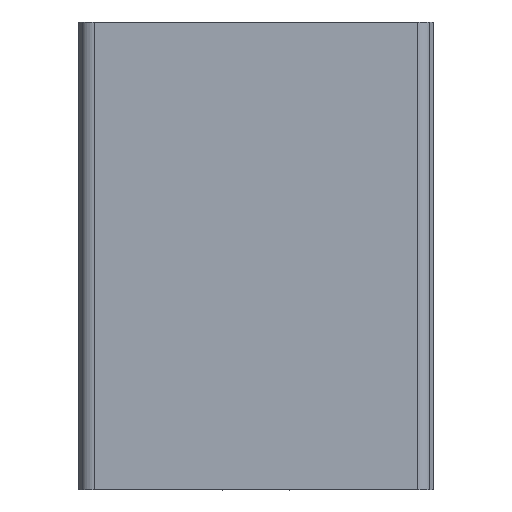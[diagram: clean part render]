
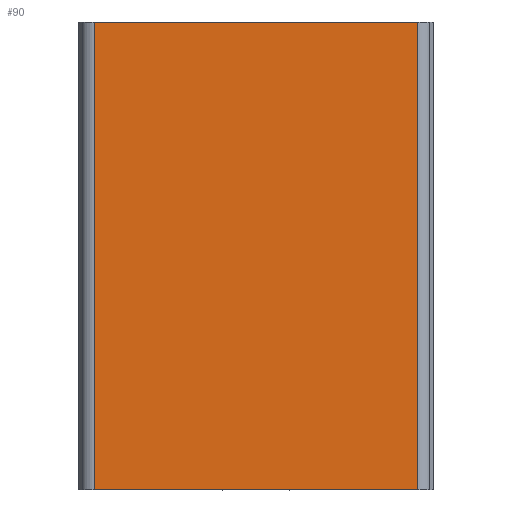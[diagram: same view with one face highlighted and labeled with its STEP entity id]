
A CAD part, top view. The second image highlights one B-rep face of the part: STEP entity #90.
In plain terms, the highlighted planar face has unit normal (0, 0, 1).
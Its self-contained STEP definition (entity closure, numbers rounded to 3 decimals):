
#90=ADVANCED_FACE('',(#206),#207,.F.);
#206=FACE_OUTER_BOUND('',#345,.T.);
#207=PLANE('',#346);
#345=EDGE_LOOP('',(#571,#572,#573,#574));
#346=AXIS2_PLACEMENT_3D('',#575,#576,#577);
#571=ORIENTED_EDGE('',*,*,#947,.T.);
#572=ORIENTED_EDGE('',*,*,#948,.F.);
#573=ORIENTED_EDGE('',*,*,#886,.F.);
#574=ORIENTED_EDGE('',*,*,#945,.T.);
#575=CARTESIAN_POINT('',(37.268,0.,2.));
#576=DIRECTION('',(0.0,0.0,-1.0));
#577=DIRECTION('',(0.0,-1.0,0.0));
#886=EDGE_CURVE('',#1066,#1068,#1069,.T.);
#945=EDGE_CURVE('',#1066,#1166,#1168,.T.);
#947=EDGE_CURVE('',#1166,#1170,#1171,.T.);
#948=EDGE_CURVE('',#1068,#1170,#1172,.T.);
#1066=VERTEX_POINT('',#1326);
#1068=VERTEX_POINT('',#1328);
#1069=LINE('',#1329,#1330);
#1166=VERTEX_POINT('',#1455);
#1168=LINE('',#1457,#1458);
#1170=VERTEX_POINT('',#1460);
#1171=LINE('',#1461,#1462);
#1172=LINE('',#1463,#1464);
#1326=CARTESIAN_POINT('',(37.268,0.,2.));
#1328=CARTESIAN_POINT('',(2.732,0.,2.));
#1329=CARTESIAN_POINT('',(37.268,0.,2.));
#1330=VECTOR('',#1656,1.0);
#1455=CARTESIAN_POINT('',(37.268,50.0,2.));
#1457=CARTESIAN_POINT('',(37.268,0.,2.));
#1458=VECTOR('',#1748,1.0);
#1460=CARTESIAN_POINT('',(2.732,50.0,2.));
#1461=CARTESIAN_POINT('',(37.268,50.0,2.));
#1462=VECTOR('',#1749,1.0);
#1463=CARTESIAN_POINT('',(2.732,0.,2.));
#1464=VECTOR('',#1750,1.0);
#1656=DIRECTION('',(-1.0,0.0,0.0));
#1748=DIRECTION('',(0.0,1.0,0.0));
#1749=DIRECTION('',(-1.0,0.0,0.0));
#1750=DIRECTION('',(0.0,1.0,0.0));
